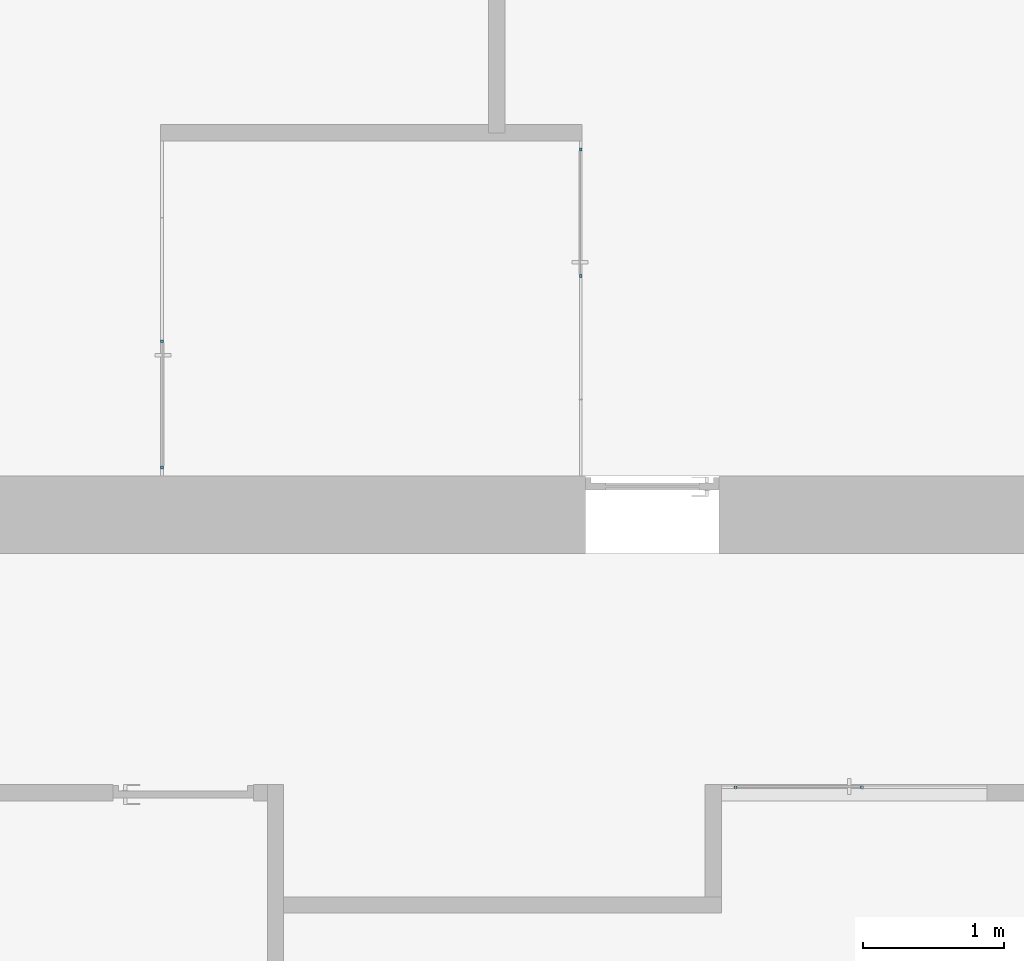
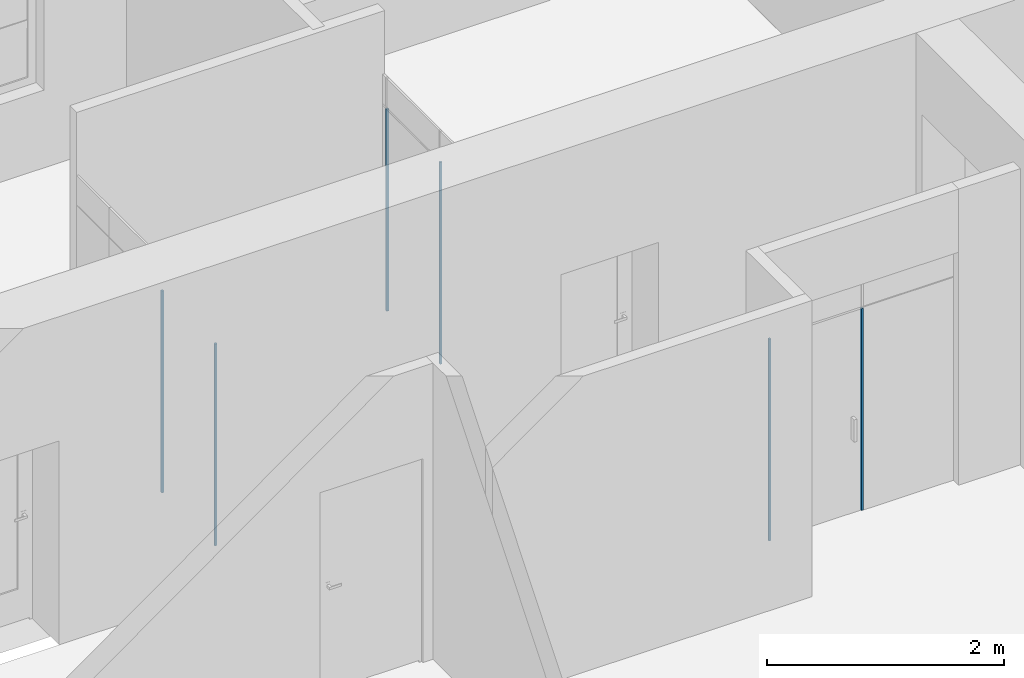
# One storey, part 5 of 66: 6 members, 3 elements without a shape of their own.
"""IFC2X3 building model written with IfcOpenShell, lengths in millimetres."""

from ifc_helpers import new_model, entity, si_unit, converted_unit, derived_unit, direction, frame, origin, origin_2d_with_axis, place, context, subcontext, project, spatial, rectangle, extrude, source, transform, mapped, material, type_object, type_shapes, element, aggregate, save


model = new_model("IFC2X3")

# Units and contexts
model_context = context("Model", 3, precision=0.01, world=origin(), true_north=direction((6.12303176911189e-17, 1.0)))
body_context = subcontext(model_context, "Body", "Model", "MODEL_VIEW")
ifc_project = project(units=[si_unit("LENGTHUNIT", "METRE", prefix="MILLI"), si_unit("AREAUNIT", "SQUARE_METRE"), si_unit("VOLUMEUNIT", "CUBIC_METRE"), converted_unit("PLANEANGLEUNIT", "DEGREE", entity("IfcRatioMeasure", 0.0174532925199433), si_unit("PLANEANGLEUNIT", "RADIAN"), dimensions=[0, 0, 0, 0, 0, 0, 0]), si_unit("MASSUNIT", "GRAM", prefix="KILO"), derived_unit("MASSDENSITYUNIT", [(si_unit("MASSUNIT", "GRAM", prefix="KILO"), 1), (si_unit("LENGTHUNIT", "METRE"), -3)]), si_unit("TIMEUNIT", "SECOND"), si_unit("FREQUENCYUNIT", "HERTZ"), si_unit("THERMODYNAMICTEMPERATUREUNIT", "DEGREE_CELSIUS"), derived_unit("THERMALTRANSMITTANCEUNIT", [(si_unit("MASSUNIT", "GRAM", prefix="KILO"), 1), (si_unit("THERMODYNAMICTEMPERATUREUNIT", "KELVIN"), -1), (si_unit("TIMEUNIT", "SECOND"), -3)]), derived_unit("VOLUMETRICFLOWRATEUNIT", [(si_unit("LENGTHUNIT", "METRE"), 3), (si_unit("TIMEUNIT", "SECOND"), -1)]), si_unit("ELECTRICCURRENTUNIT", "AMPERE"), si_unit("ELECTRICVOLTAGEUNIT", "VOLT"), si_unit("POWERUNIT", "WATT"), si_unit("FORCEUNIT", "NEWTON", prefix="KILO"), si_unit("ILLUMINANCEUNIT", "LUX"), si_unit("LUMINOUSFLUXUNIT", "LUMEN"), si_unit("LUMINOUSINTENSITYUNIT", "CANDELA"), derived_unit("USERDEFINED", [(si_unit("MASSUNIT", "GRAM", prefix="KILO"), -1), (si_unit("LENGTHUNIT", "METRE"), -2), (si_unit("TIMEUNIT", "SECOND"), 3), (si_unit("LUMINOUSFLUXUNIT", "LUMEN"), 1)]), derived_unit("LINEARVELOCITYUNIT", [(si_unit("LENGTHUNIT", "METRE"), 1), (si_unit("TIMEUNIT", "SECOND"), -1)]), si_unit("PRESSUREUNIT", "PASCAL"), derived_unit("USERDEFINED", [(si_unit("LENGTHUNIT", "METRE"), -2), (si_unit("MASSUNIT", "GRAM", prefix="KILO"), 1), (si_unit("TIMEUNIT", "SECOND"), -2)])], contexts=[model_context])

# Site, building, storey
site_placement = place(None, frame((-151.875543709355, 2715.0, 0.0)))
site = spatial("IfcSite", under=ifc_project, at=site_placement, Name="Surface", CompositionType="ELEMENT")
building_placement = place(site_placement, origin())
building = spatial("IfcBuilding", under=site, at=building_placement, CompositionType="ELEMENT")
storey_placement = place(building_placement, frame((0.0, 0.0, 3350.0)))
storey = spatial("IfcBuildingStorey", under=building, at=storey_placement, Name="2 korrus", CompositionType="ELEMENT", Elevation=3350.00000000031)

# Curtain wall, members
curtain_wall_type_1 = type_object("IfcCurtainWallType", Name="Curtain Wall:Klaassein KLS-11", PredefinedType="NOTDEFINED")
curtain_wall_1_placement = place(storey_placement, frame((0.0, 0.0, -3350.0)))
curtain_wall_1 = element("IfcCurtainWall", 1, at=curtain_wall_1_placement, inside=storey, type_object=curtain_wall_type_1, Name="Curtain Wall:Klaassein KLS-11", ObjectType="Curtain Wall:Klaassein KLS-11")
ifc_material = material(Name="__Uks_hele tamm")
member_type_1 = type_object("IfcMemberType", Name="20 x 20mm", PredefinedType="MEMBER")
shared_shape_1 = source(origin(), body_context, "Body", "SweptSolid", [
    extrude(rectangle(XDim=20.0, YDim=20.0, at=origin_2d_with_axis()), frame((0.0, 0.0, -2080.0), z_axis=(0.0, 0.0, 1.0), x_axis=(0.0, -1.0, 0.0)), (0.0, 0.0, 1.0), 2080.0),
])
type_shapes(member_type_1, [shared_shape_1])
member_1_placement = place(storey_placement, frame((29055.564726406, 4345.04493399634, 0.0), z_axis=(0.0, 0.0, -1.0), x_axis=(-1.0, 0.0, 0.0)))
member_1 = element("IfcMember", 2, at=member_1_placement, type_object=member_type_1, material=ifc_material, Name="Rectangular Mullion:20 x 20mm", ObjectType="20 x 20mm", context=body_context, shape_type="MappedRepresentation", body=[
    mapped(shared_shape_1, transform((0.0, 0.0, 0.0), scale=1.0)),
])
member_type_2 = type_object("IfcMemberType", Name="20 x 20mm", PredefinedType="MEMBER")
shared_shape_2 = source(origin(), body_context, "Body", "SweptSolid", [
    extrude(rectangle(XDim=20.0, YDim=20.0, at=origin_2d_with_axis()), frame((0.0, 0.0, -2080.0), z_axis=(0.0, 0.0, 1.0), x_axis=(0.0, -1.0, 0.0)), (0.0, 0.0, 1.0), 2080.0),
])
type_shapes(member_type_2, [shared_shape_2])
member_2_placement = place(storey_placement, frame((28155.564726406, 4345.04493399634, 0.0), z_axis=(0.0, 0.0, -1.0), x_axis=(-1.0, 0.0, 0.0)))
member_2 = element("IfcMember", 3, at=member_2_placement, type_object=member_type_2, material=ifc_material, Name="Rectangular Mullion:20 x 20mm", ObjectType="20 x 20mm", context=body_context, shape_type="MappedRepresentation", body=[
    mapped(shared_shape_2, transform((0.0, 0.0, 0.0), scale=1.0)),
])
aggregate(curtain_wall_1, [member_1, member_2])

curtain_wall_type_2 = type_object("IfcCurtainWallType", Name="Curtain Wall:Klaassein KLS-05", PredefinedType="NOTDEFINED")
curtain_wall_2_placement = place(storey_placement, frame((0.0, 0.0, -3350.0)))
curtain_wall_2 = element("IfcCurtainWall", 4, at=curtain_wall_2_placement, inside=storey, type_object=curtain_wall_type_2, Name="Curtain Wall:Klaassein KLS-05", ObjectType="Curtain Wall:Klaassein KLS-05")
member_type_3 = type_object("IfcMemberType", Name="20 x 20mm", PredefinedType="MEMBER")
shared_shape_3 = source(origin(), body_context, "Body", "SweptSolid", [
    extrude(rectangle(XDim=20.0, YDim=20.0, at=origin_2d_with_axis()), frame((0.0, 0.0, -2080.0), z_axis=(0.0, 0.0, 1.0), x_axis=(0.0, -1.0, 0.0)), (0.0, 0.0, 1.0), 2080.0),
])
type_shapes(member_type_3, [shared_shape_3])
member_3_placement = place(storey_placement, frame((27053.2859998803, 7984.0, 0.0), z_axis=(0.0, 0.0, -1.0), x_axis=(0.0, 1.0, 0.0)))
member_3 = element("IfcMember", 5, at=member_3_placement, type_object=member_type_3, material=ifc_material, Name="Rectangular Mullion:20 x 20mm", ObjectType="20 x 20mm", context=body_context, shape_type="MappedRepresentation", body=[
    mapped(shared_shape_3, transform((0.0, 0.0, 0.0), scale=1.0)),
])
member_type_4 = type_object("IfcMemberType", Name="20 x 20mm", PredefinedType="MEMBER")
shared_shape_4 = source(origin(), body_context, "Body", "SweptSolid", [
    extrude(rectangle(XDim=20.0, YDim=20.0, at=origin_2d_with_axis()), frame((0.0, 0.0, -2080.0), z_axis=(0.0, 0.0, 1.0), x_axis=(0.0, -1.0, 0.0)), (0.0, 0.0, 1.0), 2080.0),
])
type_shapes(member_type_4, [shared_shape_4])
member_4_placement = place(storey_placement, frame((27053.2859998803, 8884.0, 0.0), z_axis=(0.0, 0.0, -1.0), x_axis=(0.0, 1.0, 0.0)))
member_4 = element("IfcMember", 6, at=member_4_placement, type_object=member_type_4, material=ifc_material, Name="Rectangular Mullion:20 x 20mm", ObjectType="20 x 20mm", context=body_context, shape_type="MappedRepresentation", body=[
    mapped(shared_shape_4, transform((0.0, 0.0, 0.0), scale=1.0)),
])
aggregate(curtain_wall_2, [member_3, member_4])

curtain_wall_3_placement = place(storey_placement, frame((0.0, 0.0, -3350.0)))
curtain_wall_3 = element("IfcCurtainWall", 7, at=curtain_wall_3_placement, inside=storey, type_object=curtain_wall_type_2, Name="Curtain Wall:Klaassein KLS-05", ObjectType="Curtain Wall:Klaassein KLS-05")
member_type_5 = type_object("IfcMemberType", Name="20 x 20mm", PredefinedType="MEMBER")
shared_shape_5 = source(origin(), body_context, "Body", "SweptSolid", [
    extrude(rectangle(XDim=20.0, YDim=20.0, at=origin_2d_with_axis()), frame((0.0, 0.0, -2080.0), z_axis=(0.0, 0.0, 1.0), x_axis=(0.0, -1.0, 0.0)), (0.0, 0.0, 1.0), 2080.0),
])
type_shapes(member_type_5, [shared_shape_5])
member_5_placement = place(storey_placement, frame((24073.28599988, 7520.0, 0.0), z_axis=(0.0, 0.0, -1.0), x_axis=(0.0, -1.0, 0.0)))
member_5 = element("IfcMember", 8, at=member_5_placement, type_object=member_type_5, material=ifc_material, Name="Rectangular Mullion:20 x 20mm", ObjectType="20 x 20mm", context=body_context, shape_type="MappedRepresentation", body=[
    mapped(shared_shape_5, transform((0.0, 0.0, 0.0), scale=1.0)),
])
member_type_6 = type_object("IfcMemberType", Name="20 x 20mm", PredefinedType="MEMBER")
shared_shape_6 = source(origin(), body_context, "Body", "SweptSolid", [
    extrude(rectangle(XDim=20.0, YDim=20.0, at=origin_2d_with_axis()), frame((0.0, 0.0, -2080.0), z_axis=(0.0, 0.0, 1.0), x_axis=(0.0, -1.0, 0.0)), (0.0, 0.0, 1.0), 2080.0),
])
type_shapes(member_type_6, [shared_shape_6])
member_6_placement = place(storey_placement, frame((24073.28599988, 6620.0, 0.0), z_axis=(0.0, 0.0, -1.0), x_axis=(0.0, -1.0, 0.0)))
member_6 = element("IfcMember", 9, at=member_6_placement, type_object=member_type_6, material=ifc_material, Name="Rectangular Mullion:20 x 20mm", ObjectType="20 x 20mm", context=body_context, shape_type="MappedRepresentation", body=[
    mapped(shared_shape_6, transform((0.0, 0.0, 0.0), scale=1.0)),
])
aggregate(curtain_wall_3, [member_5, member_6])

save(model, "model.ifc")
